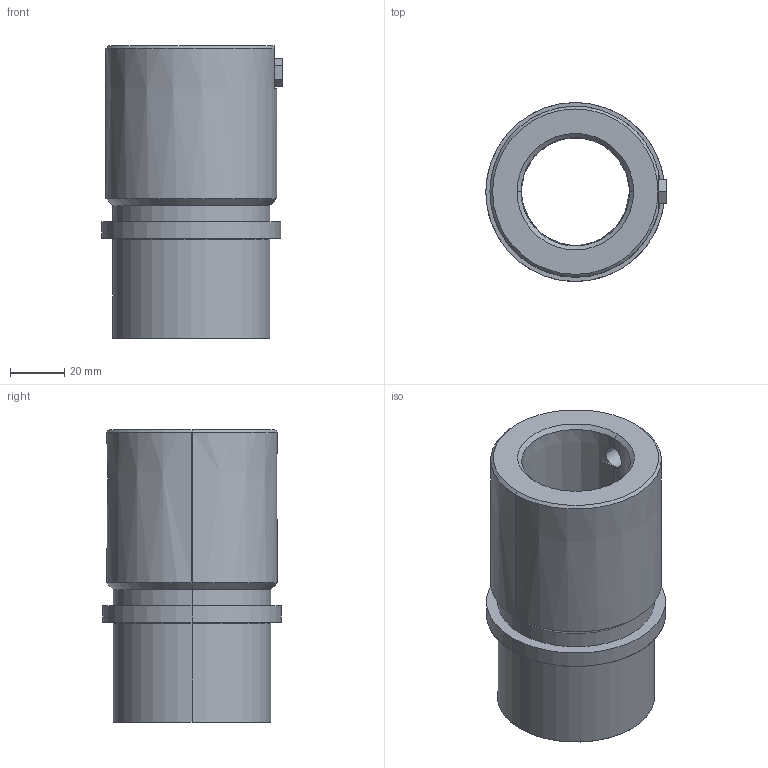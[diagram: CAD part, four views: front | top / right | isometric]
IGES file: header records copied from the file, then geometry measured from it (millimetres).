
Start section: START RECORD GO HERE.
Global section: file name: 742-40.igs; native system: DASSAULT SYSTEMES CATIA V5 R20 - www.3ds.com; preprocessor: CATIA Version 5 Release 20 ; author: Utente; organization: NB04-ASUS; date: 20210123.114405; units: millimetre
Bounding box: 66.5 x 66 x 108 mm (x, y, z)
Surface area: 39525.2 mm2 (no closed solid volume)
Topology: 0 solids, 0 shells, 38 faces, 178 edges, 178 vertices
Faces by surface type: revolution 24, plane 14
